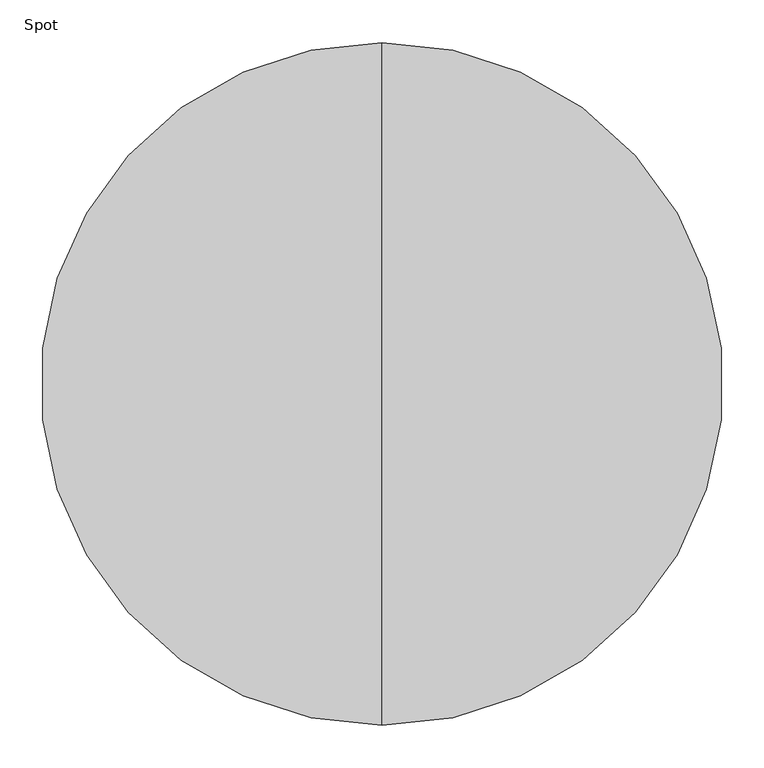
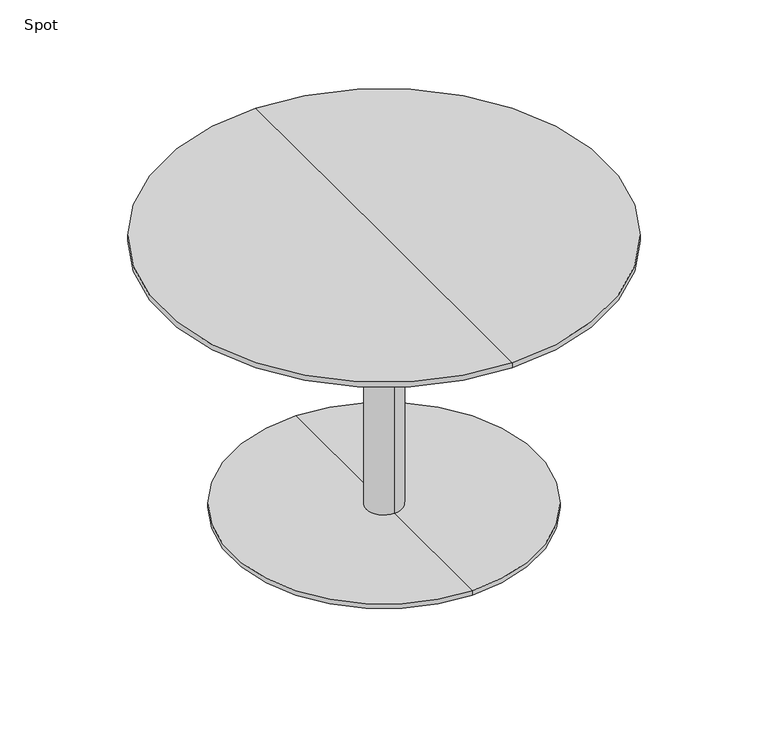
"""IFC4 building model written with IfcOpenShell, lengths in millimetres: furniture geometry, Spot : Bø80x52."""

from ifc_helpers import new_model, si_unit, frame, origin, place, context, project, spatial, polyline, circle_curve, source, transform, mapped, element, save
from ifc_brep_helpers import plane_surface, cylinder_surface, revolved_surface, advanced_brep


def spot_78ec0b63(model_context):
    return source(origin(), model_context, "Body", "AdvancedBrep", [
        advanced_brep(
        [(0.0, -400.0, 520.0), (0.0, 400.0, 520.0), (0.0, 0.0, 520.0), (0.0, 400.0, 510.25), (0.0, -400.0, 510.25), (0.0, 0.0, 498.0), (0.0, -354.2823776, 498.0), (0.0, 354.2823776, 498.0)],
        [
            (0, 1, circle_curve(frame((0.0, 0.0, 520.0), z_axis=(0.0, 0.0, 1.0), x_axis=(0.0, -1.0, 0.0)), 400.0)),
            (1, 2),
            (2, 0),
            (3, 4, circle_curve(frame((0.0, 0.0, 510.25), z_axis=(0.0, 0.0, 1.0), x_axis=(0.0, -1.0, 0.0)), 400.0)),
            (4, 0),
            (0, 1, circle_curve(frame((0.0, 0.0, 520.0), z_axis=(0.0, 0.0, -1.0), x_axis=(0.0, -1.0, 0.0)), 400.0)),
            (1, 3),
            (5, 6),
            (6, 7, circle_curve(frame((0.0, 0.0, 498.0), z_axis=(0.0, 0.0, -1.0), x_axis=(0.0, -1.0, 0.0)), 354.2823776)),
            (7, 5),
            (7, 6, circle_curve(frame((0.0, 0.0, 498.0), z_axis=(0.0, 0.0, -1.0), x_axis=(0.0, -1.0, 0.0)), 354.2823776)),
            (4, 3, circle_curve(frame((0.0, 0.0, 510.25), z_axis=(0.0, 0.0, 1.0), x_axis=(0.0, -1.0, 0.0)), 400.0)),
            (6, 4),
            (3, 7),
        ],
        [
            plane_surface(frame((0.0, 0.0, 520.0), z_axis=(0.0, 0.0, 1.0), x_axis=(0.0, -1.0, 0.0))),
            cylinder_surface(frame((0.0, 0.0, 600.0), z_axis=(0.0, 0.0, -1.0), x_axis=(0.0, -1.0, 0.0)), 400.0),
            plane_surface(frame((0.0, 0.0, 498.0), z_axis=(0.0, 0.0, -1.0), x_axis=(0.0, -1.0, 0.0))),
            revolved_surface(polyline([(0.0, -400.0, 510.25), (0.0, -354.2823776, 498.0)]), (0.0, 0.0, 600.0), (0.0, 0.0, -1.0)),
        ],
        [
            (0, [[1, 2, 3]]),
            (1, [[4, 5, 6, 7]]),
            (2, [[8, 9, 10]]),
            (2, [[-10, 11, -8]]),
            (0, [[-6, -3, -2]]),
            (1, [[12, -7, -1, -5]]),
            (3, [[-9, 13, -4, 14]]),
            (3, [[-11, -14, -12, -13]]),
        ],
    ),
        advanced_brep(
        [(0.0, 32.0, 10.0), (0.0, -32.0, 10.0), (0.0, -32.0, 467.406916), (0.0, 32.0, 467.406916), (0.0, 275.0, 10.0), (0.0, -275.0, 10.0), (0.0, 275.0, 2.0), (0.0, -275.0, 2.0), (0.0, 0.0, 2.0), (0.0, 150.0, 498.0), (0.0, -150.0, 498.0), (0.0, 0.0, 498.0), (0.0, 150.0, 486.7213673), (0.0, -150.0, 486.7213673)],
        [
            (0, 1, circle_curve(frame((0.0, 0.0, 10.0), z_axis=(0.0, 0.0, 1.0), x_axis=(0.0, -1.0, 0.0)), 32.0)),
            (1, 2),
            (2, 3, circle_curve(frame((0.0, 0.0, 467.406916), z_axis=(0.0, 0.0, -1.0), x_axis=(0.0, -1.0, 0.0)), 32.0)),
            (3, 0),
            (1, 0, circle_curve(frame((0.0, 0.0, 10.0), z_axis=(0.0, 0.0, 1.0), x_axis=(0.0, -1.0, 0.0)), 32.0)),
            (3, 2, circle_curve(frame((0.0, 0.0, 467.406916), z_axis=(0.0, 0.0, -1.0), x_axis=(0.0, -1.0, 0.0)), 32.0)),
            (4, 5, circle_curve(frame((0.0, 0.0, 10.0), z_axis=(0.0, 0.0, 1.0), x_axis=(0.0, -1.0, 0.0)), 275.0)),
            (5, 1),
            (0, 4),
            (5, 4, circle_curve(frame((0.0, 0.0, 10.0), z_axis=(0.0, 0.0, 1.0), x_axis=(0.0, -1.0, 0.0)), 275.0)),
            (6, 7, circle_curve(frame((0.0, 0.0, 2.0), z_axis=(0.0, 0.0, 1.0), x_axis=(0.0, -1.0, 0.0)), 275.0)),
            (7, 5),
            (4, 6),
            (7, 6, circle_curve(frame((0.0, 0.0, 2.0), z_axis=(0.0, 0.0, 1.0), x_axis=(0.0, -1.0, 0.0)), 275.0)),
            (8, 7),
            (6, 8),
            (9, 10, circle_curve(frame((0.0, 0.0, 498.0), z_axis=(0.0, 0.0, 1.0), x_axis=(0.0, -1.0, 0.0)), 150.0)),
            (10, 11),
            (11, 9),
            (10, 9, circle_curve(frame((0.0, 0.0, 498.0), z_axis=(0.0, 0.0, 1.0), x_axis=(0.0, -1.0, 0.0)), 150.0)),
            (12, 13, circle_curve(frame((0.0, 0.0, 486.7213673), z_axis=(0.0, 0.0, 1.0), x_axis=(0.0, -1.0, 0.0)), 150.0)),
            (13, 10),
            (9, 12),
            (13, 12, circle_curve(frame((0.0, 0.0, 486.7213673), z_axis=(0.0, 0.0, 1.0), x_axis=(0.0, -1.0, 0.0)), 150.0)),
            (2, 13),
            (12, 3),
        ],
        [
            cylinder_surface(frame((0.0, 0.0, 860.0), z_axis=(0.0, 0.0, -1.0), x_axis=(0.0, -1.0, 0.0)), 32.0),
            plane_surface(frame((0.0, 0.0, 10.0), z_axis=(0.0, 0.0, 1.0), x_axis=(0.0, -1.0, 0.0))),
            cylinder_surface(frame((0.0, 0.0, 860.0), z_axis=(0.0, 0.0, -1.0), x_axis=(0.0, -1.0, 0.0)), 275.0),
            plane_surface(frame((0.0, 0.0, 2.0), z_axis=(0.0, 0.0, -1.0), x_axis=(0.0, -1.0, 0.0))),
            plane_surface(frame((0.0, 0.0, 498.0), z_axis=(0.0, 0.0, 1.0), x_axis=(0.0, -1.0, 0.0))),
            cylinder_surface(frame((0.0, 0.0, 860.0), z_axis=(0.0, 0.0, -1.0), x_axis=(0.0, -1.0, 0.0)), 150.0),
            revolved_surface(polyline([(0.0, -150.0, 486.7213673), (0.0, -32.0, 467.406916)]), (0.0, 0.0, 860.0), (0.0, 0.0, -1.0)),
        ],
        [
            (0, [[1, 2, 3, 4]]),
            (0, [[5, -4, 6, -2]]),
            (1, [[7, 8, -1, 9]]),
            (1, [[10, -9, -5, -8]]),
            (2, [[11, 12, -7, 13]]),
            (2, [[14, -13, -10, -12]]),
            (3, [[15, -11, 16]]),
            (3, [[-16, -14, -15]]),
            (4, [[17, 18, 19]]),
            (4, [[20, -19, -18]]),
            (5, [[21, 22, -17, 23]]),
            (5, [[24, -23, -20, -22]]),
            (6, [[-3, 25, -21, 26]]),
            (6, [[-6, -26, -24, -25]]),
        ],
    ),
    ])


if __name__ == "__main__":
    model = new_model("IFC4")
    model_context = context("Model", 3, world=origin())
    ifc_project = project(units=[si_unit("LENGTHUNIT", "METRE", prefix="MILLI")], contexts=[model_context])
    site = spatial("IfcSite", under=ifc_project)
    building = spatial("IfcBuilding", under=site)
    placement = place(None, origin())
    spot_shape = spot_78ec0b63(model_context)
    element("IfcFurniture", 1, ObjectType="Spot : Bø80x52", at=placement, inside=building, context=model_context, shape_type="MappedRepresentation", body=[
        mapped(spot_shape, transform((0.0, 0.0, 0.0), x_axis=(1.0, 0.0, 0.0), y_axis=(0.0, 1.0, 0.0), z_axis=(0.0, 0.0, 1.0))),
    ])
    save(model, "model.ifc")
